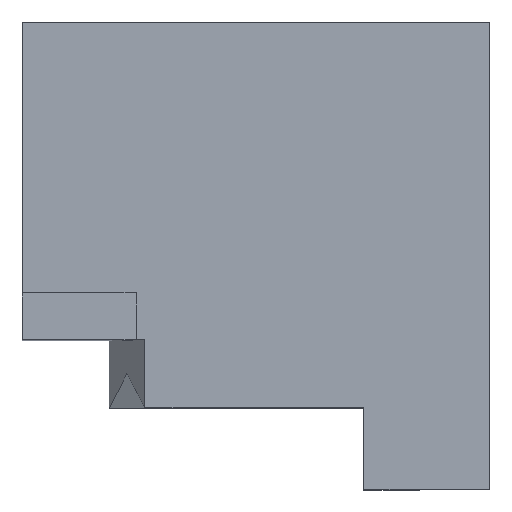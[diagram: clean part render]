
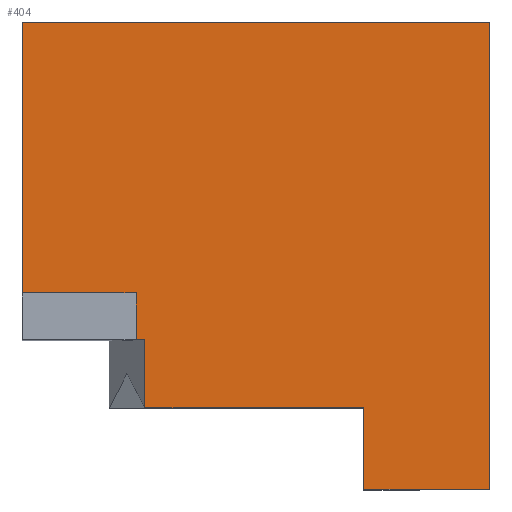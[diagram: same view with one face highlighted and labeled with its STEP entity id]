
A CAD part, top view. The second image highlights one B-rep face of the part: STEP entity #404.
In plain terms, the highlighted planar face has unit normal (0, 0, 1).
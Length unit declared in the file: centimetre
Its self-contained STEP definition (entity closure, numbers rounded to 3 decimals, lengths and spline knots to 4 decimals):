
#2 = CARTESIAN_POINT ( 'NONE',  ( 262.1497, 319.8765, 1000. ) ) ;
#14 = EDGE_CURVE ( 'NONE', #117, #148, #68, .T. ) ;
#22 = DIRECTION ( 'NONE',  ( 1., 0., 0. ) ) ;
#24 = ORIENTED_EDGE ( 'NONE', *, *, #342, .T. ) ;
#26 = VERTEX_POINT ( 'NONE', #332 ) ;
#30 = VECTOR ( 'NONE', #240, 100. ) ;
#48 = CARTESIAN_POINT ( 'NONE',  ( 262.1497, 319.8765, 1000. ) ) ;
#52 = VERTEX_POINT ( 'NONE', #330 ) ;
#54 = LINE ( 'NONE', #48, #30 ) ;
#57 = CARTESIAN_POINT ( 'NONE',  ( 243.2844, 319.8765, 1000. ) ) ;
#62 = VECTOR ( 'NONE', #87, 100. ) ;
#64 = EDGE_CURVE ( 'NONE', #148, #264, #262, .T. ) ;
#68 = LINE ( 'NONE', #466, #184 ) ;
#69 = VERTEX_POINT ( 'NONE', #782 ) ;
#75 = ORIENTED_EDGE ( 'NONE', *, *, #279, .F. ) ;
#87 = DIRECTION ( 'NONE',  ( -1., 0., 0. ) ) ;
#93 = CARTESIAN_POINT ( 'NONE',  ( 0., 420.4725, 1000. ) ) ;
#100 = LINE ( 'NONE', #209, #660 ) ;
#106 = FACE_OUTER_BOUND ( 'NONE', #702, .T. ) ;
#117 = VERTEX_POINT ( 'NONE', #315 ) ;
#132 = ORIENTED_EDGE ( 'NONE', *, *, #14, .F. ) ;
#148 = VERTEX_POINT ( 'NONE', #310 ) ;
#184 = VECTOR ( 'NONE', #844, 100. ) ;
#209 = CARTESIAN_POINT ( 'NONE',  ( 1000., 1000., 1000. ) ) ;
#212 = ORIENTED_EDGE ( 'NONE', *, *, #64, .F. ) ;
#219 = DIRECTION ( 'NONE',  ( 0., -1., 0. ) ) ;
#238 = ORIENTED_EDGE ( 'NONE', *, *, #762, .T. ) ;
#240 = DIRECTION ( 'NONE',  ( 0., -1., 0. ) ) ;
#249 = VERTEX_POINT ( 'NONE', #797 ) ;
#262 = LINE ( 'NONE', #784, #505 ) ;
#264 = VERTEX_POINT ( 'NONE', #359 ) ;
#279 = EDGE_CURVE ( 'NONE', #69, #26, #495, .T. ) ;
#302 = CARTESIAN_POINT ( 'NONE',  ( 0., 1000., 1000. ) ) ;
#305 = EDGE_CURVE ( 'NONE', #430, #750, #606, .T. ) ;
#310 = CARTESIAN_POINT ( 'NONE',  ( 730.8398, 174.0705, 1000. ) ) ;
#315 = CARTESIAN_POINT ( 'NONE',  ( 730.8398, 0., 1000. ) ) ;
#330 = CARTESIAN_POINT ( 'NONE',  ( 1000., 1000., 1000. ) ) ;
#332 = CARTESIAN_POINT ( 'NONE',  ( 0., 420.4725, 1000. ) ) ;
#338 = VECTOR ( 'NONE', #802, 100. ) ;
#342 = EDGE_CURVE ( 'NONE', #249, #52, #100, .T. ) ;
#348 = ORIENTED_EDGE ( 'NONE', *, *, #692, .T. ) ;
#356 = DIRECTION ( 'NONE',  ( 0., 0., 1. ) ) ;
#359 = CARTESIAN_POINT ( 'NONE',  ( 262.1497, 174.0705, 1000. ) ) ;
#360 = EDGE_CURVE ( 'NONE', #117, #249, #414, .T. ) ;
#387 = VECTOR ( 'NONE', #219, 100. ) ;
#388 = CARTESIAN_POINT ( 'NONE',  ( 0., 1000., 1000. ) ) ;
#399 = ORIENTED_EDGE ( 'NONE', *, *, #360, .T. ) ;
#404 = ADVANCED_FACE ( 'NONE', ( #106 ), #508, .T. ) ;
#414 = LINE ( 'NONE', #487, #417 ) ;
#417 = VECTOR ( 'NONE', #22, 100. ) ;
#418 = DIRECTION ( 'NONE',  ( 1., 0., 0. ) ) ;
#419 = DIRECTION ( 'NONE',  ( 0., -1., 0. ) ) ;
#430 = VERTEX_POINT ( 'NONE', #2 ) ;
#457 = ORIENTED_EDGE ( 'NONE', *, *, #732, .T. ) ;
#466 = CARTESIAN_POINT ( 'NONE',  ( 730.8398, 0., 1000. ) ) ;
#475 = DIRECTION ( 'NONE',  ( 0., 1., 0. ) ) ;
#478 = VECTOR ( 'NONE', #419, 100. ) ;
#483 = CARTESIAN_POINT ( 'NONE',  ( 0., 1000., 1000. ) ) ;
#487 = CARTESIAN_POINT ( 'NONE',  ( 0., 0., 1000. ) ) ;
#495 = LINE ( 'NONE', #93, #62 ) ;
#505 = VECTOR ( 'NONE', #530, 100. ) ;
#508 = PLANE ( 'NONE',  #623 ) ;
#530 = DIRECTION ( 'NONE',  ( -1., 0., 0. ) ) ;
#574 = VERTEX_POINT ( 'NONE', #388 ) ;
#606 = LINE ( 'NONE', #729, #338 ) ;
#623 = AXIS2_PLACEMENT_3D ( 'NONE', #754, #356, #418 ) ;
#660 = VECTOR ( 'NONE', #475, 100. ) ;
#674 = ORIENTED_EDGE ( 'NONE', *, *, #305, .F. ) ;
#679 = CARTESIAN_POINT ( 'NONE',  ( 243.2844, 420.4725, 1000. ) ) ;
#681 = EDGE_CURVE ( 'NONE', #69, #750, #682, .T. ) ;
#682 = LINE ( 'NONE', #679, #478 ) ;
#692 = EDGE_CURVE ( 'NONE', #574, #26, #751, .T. ) ;
#702 = EDGE_LOOP ( 'NONE', ( #721, #674, #238, #212, #132, #399, #24, #457, #348, #75 ) ) ;
#719 = VECTOR ( 'NONE', #738, 100. ) ;
#721 = ORIENTED_EDGE ( 'NONE', *, *, #681, .T. ) ;
#729 = CARTESIAN_POINT ( 'NONE',  ( 0., 319.8765, 1000. ) ) ;
#732 = EDGE_CURVE ( 'NONE', #52, #574, #805, .T. ) ;
#738 = DIRECTION ( 'NONE',  ( -1., 0., 0. ) ) ;
#750 = VERTEX_POINT ( 'NONE', #57 ) ;
#751 = LINE ( 'NONE', #302, #387 ) ;
#754 = CARTESIAN_POINT ( 'NONE',  ( 0., 0., 1000. ) ) ;
#762 = EDGE_CURVE ( 'NONE', #430, #264, #54, .T. ) ;
#782 = CARTESIAN_POINT ( 'NONE',  ( 243.2844, 420.4725, 1000. ) ) ;
#784 = CARTESIAN_POINT ( 'NONE',  ( 730.8398, 174.0705, 1000. ) ) ;
#797 = CARTESIAN_POINT ( 'NONE',  ( 1000., 0., 1000. ) ) ;
#802 = DIRECTION ( 'NONE',  ( -1., 0., 0. ) ) ;
#805 = LINE ( 'NONE', #483, #719 ) ;
#844 = DIRECTION ( 'NONE',  ( 0., 1., 0. ) ) ;
